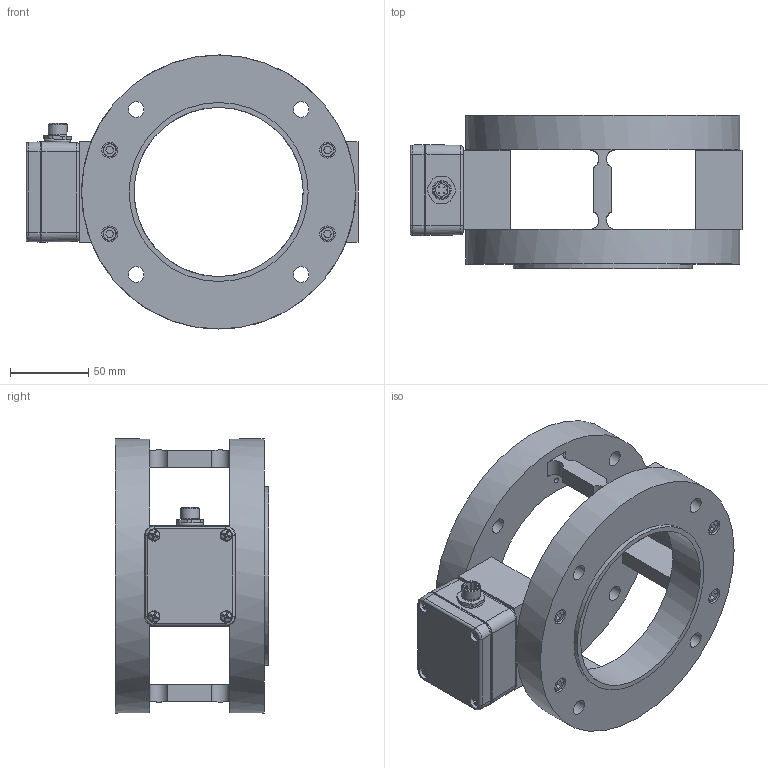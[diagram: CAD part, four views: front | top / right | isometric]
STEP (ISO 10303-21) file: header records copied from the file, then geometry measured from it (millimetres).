
FILE_DESCRIPTION(/* description */ ('Alibre Inc.'),/* implementation_level */ '2;1');
FILE_NAME(/* name */ 'export0',/* time_stamp */ '2011-11-21T19:48:58+01:00',/* author */ (''),/* organization */ (''),/* preprocessor_version */ 'ST-DEVELOPER v10',/* originating_system */ 'Alibre',/* authorisation */ '');
FILE_SCHEMA (('CONFIG_CONTROL_DESIGN'));
Length unit declared in the file: centimetre
Products named in the file (12): ID_1; ID_2; ID_3; ID_4; ID_5; ID_6; ID_7
Bounding box: 212 x 98 x 175 mm (x, y, z)
Volume: 792152 mm3; surface area: 186290.5 mm2
Topology: 20 solids, 20 shells, 646 faces, 1514 edges, 949 vertices
Faces by surface type: plane 264, cylinder 239, cone 70, bspline 52, torus 21
Full cylindrical faces by diameter (mm): 0.5 x8, 2.013 x4, 2.8 x4, 2.87 x4, 3.2 x4, 3.5 x4, 4 x4, 4.134 x4, 4.5 x2, 4.8 x2, 5 x4, 5.5 x4, 6 x1, 7 x4, 8 x3, 8.3 x4, 8.6 x2, 10 x15, 11.5 x1, 12 x1, 13 x1, 14.376 x1, 108 x2, 114.3 x2, 120 x1, 128 x1, 175 x2
Entity records: 17735 total; most frequent: CARTESIAN_POINT 5505, DIRECTION 2142, ORIENTED_EDGE 2080, EDGE_CURVE 1035, AXIS2_PLACEMENT_3D 940, FACE_BOUND 742, EDGE_LOOP 733, VERTEX_POINT 722
